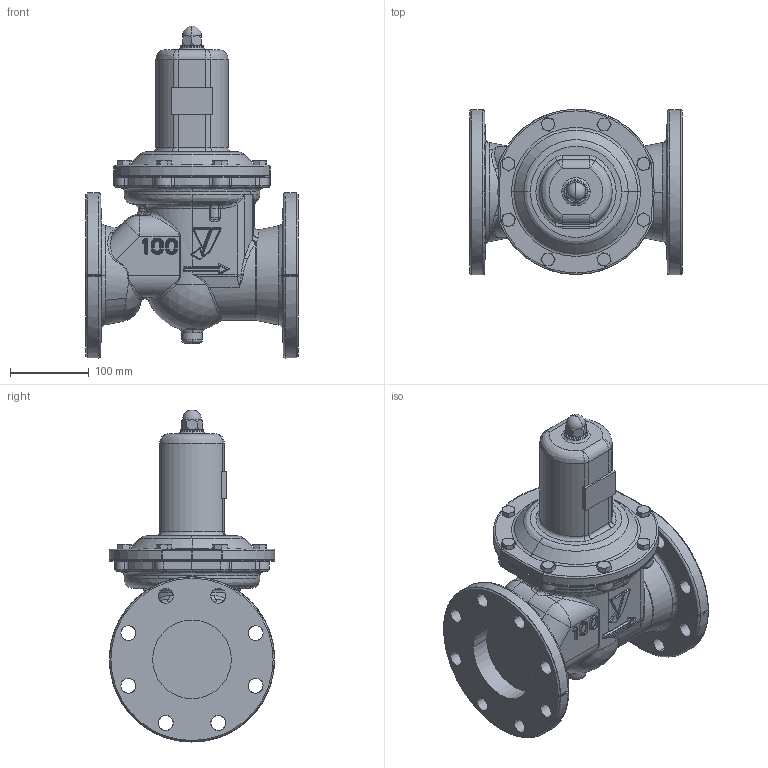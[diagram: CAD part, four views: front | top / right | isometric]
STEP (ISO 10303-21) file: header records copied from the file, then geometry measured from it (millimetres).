
FILE_DESCRIPTION( (''), '2;1');
FILE_NAME ('PC1027.4860.GD-27-NE 100A_26075.stp','2025-07-25T17:30:56',(''),(''),'spGate 19.8.4 (****-****-****-****)','','');
FILE_SCHEMA (('AUTOMOTIVE_DESIGN'));
Length unit declared in the file: millimetre
Products named in the file (6): Assembly; GD-27_100A_omogata_230410; 保護筒 100A; 四角プラグ R1／8; GD-27-NE 100A_M1; GD-27-NE 100A_M2
Assembly tree (12 placements, depth 2):
  Assembly
    GD-27_100A_omogata_230410
    保護筒 100A
    四角プラグ R1／8
    GD-27-NE 100A_M1
    GD-27-NE 100A_M2  x8
Bounding box: 270 x 210 x 422 mm (x, y, z)
Volume: 5658460 mm3; surface area: 553109.5 mm2
Topology: 12 solids, 12 shells, 929 faces, 2197 edges, 1278 vertices
Faces by surface type: bspline 390, cylinder 283, plane 199, sphere 57
Entity records: 56517 total; most frequent: CARTESIAN_POINT 26902, ORIENTED_EDGE 3604, COLOUR_RGB 2568, PRESENTATION_STYLE_ASSIGNMENT 2568, STYLED_ITEM 2568, DIRECTION 2545, EDGE_CURVE 1802, DRAUGHTING_PRE_DEFINED_CURVE_FONT 1802
